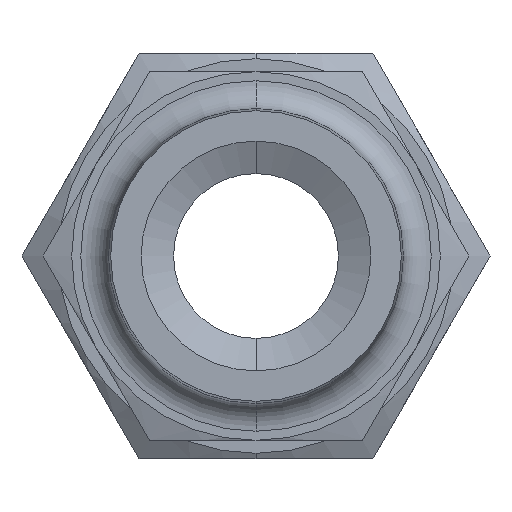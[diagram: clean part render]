
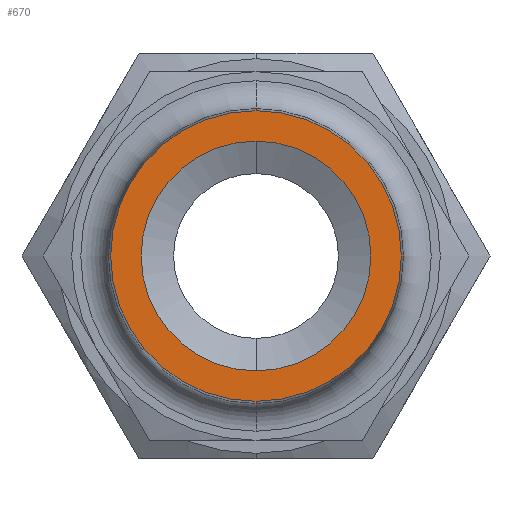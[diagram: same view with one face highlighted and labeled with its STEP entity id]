
A CAD part, left-side view. The second image highlights one B-rep face of the part: STEP entity #670.
In plain terms, the highlighted planar face has unit normal (-1, 0, 0).
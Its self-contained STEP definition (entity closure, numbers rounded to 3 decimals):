
#207 = EDGE_CURVE ( 'NONE', #307, #247, #1139, .T. ) ;
#247 = VERTEX_POINT ( 'NONE', #1114 ) ;
#294 = EDGE_CURVE ( 'NONE', #295, #296, #1300, .T. ) ;
#295 = VERTEX_POINT ( 'NONE', #1296 ) ;
#296 = VERTEX_POINT ( 'NONE', #1295 ) ;
#307 = VERTEX_POINT ( 'NONE', #1279 ) ;
#670 = ADVANCED_FACE ( 'NONE', ( #1786, #1782 ), #1781, .T. ) ;
#671 = EDGE_LOOP ( 'NONE', ( #672, #674 ) ) ;
#672 = ORIENTED_EDGE ( 'NONE', *, *, #673, .T. ) ;
#673 = EDGE_CURVE ( 'NONE', #296, #295, #1776, .T. ) ;
#674 = ORIENTED_EDGE ( 'NONE', *, *, #294, .T. ) ;
#675 = EDGE_LOOP ( 'NONE', ( #676, #705 ) ) ;
#676 = ORIENTED_EDGE ( 'NONE', *, *, #677, .F. ) ;
#677 = EDGE_CURVE ( 'NONE', #247, #307, #1924, .T. ) ;
#705 = ORIENTED_EDGE ( 'NONE', *, *, #207, .F. ) ;
#1114 = CARTESIAN_POINT ( 'NONE',  ( -23.5, 0., 4.95 ) ) ;
#1135 = DIRECTION ( 'NONE',  ( 0., 0., 1. ) ) ;
#1136 = DIRECTION ( 'NONE',  ( -1., 0., 0. ) ) ;
#1137 = CARTESIAN_POINT ( 'NONE',  ( -23.5, 0., 0. ) ) ;
#1138 = AXIS2_PLACEMENT_3D ( 'NONE', #1137, #1136, #1135 ) ;
#1139 = CIRCLE ( 'NONE', #1138, 4.95 ) ;
#1279 = CARTESIAN_POINT ( 'NONE',  ( -23.5, 0., -4.95 ) ) ;
#1295 = CARTESIAN_POINT ( 'NONE',  ( -23.5, 0., 6.259 ) ) ;
#1296 = CARTESIAN_POINT ( 'NONE',  ( -23.5, 0., -6.259 ) ) ;
#1297 = DIRECTION ( 'NONE',  ( 0., 0., 1. ) ) ;
#1298 = DIRECTION ( 'NONE',  ( -1., 0., 0. ) ) ;
#1299 = AXIS2_PLACEMENT_3D ( 'NONE', #1347, #1298, #1297 ) ;
#1300 = CIRCLE ( 'NONE', #1299, 6.259 ) ;
#1347 = CARTESIAN_POINT ( 'NONE',  ( -23.5, 0., 0. ) ) ;
#1776 = CIRCLE ( 'NONE', #1928, 6.259 ) ;
#1777 = DIRECTION ( 'NONE',  ( 0., 0., 1. ) ) ;
#1778 = DIRECTION ( 'NONE',  ( -1., 0., 0. ) ) ;
#1779 = AXIS2_PLACEMENT_3D ( 'NONE', #1780, #1778, #1777 ) ;
#1780 = CARTESIAN_POINT ( 'NONE',  ( -23.5, 0., 0. ) ) ;
#1781 = PLANE ( 'NONE',  #1779 ) ;
#1782 = FACE_BOUND ( 'NONE', #675, .T. ) ;
#1786 = FACE_OUTER_BOUND ( 'NONE', #671, .T. ) ;
#1921 = DIRECTION ( 'NONE',  ( 0., 0., 1. ) ) ;
#1922 = DIRECTION ( 'NONE',  ( -1., 0., 0. ) ) ;
#1923 = AXIS2_PLACEMENT_3D ( 'NONE', #1929, #1922, #1921 ) ;
#1924 = CIRCLE ( 'NONE', #1923, 4.95 ) ;
#1925 = DIRECTION ( 'NONE',  ( 0., 0., 1. ) ) ;
#1926 = DIRECTION ( 'NONE',  ( -1., 0., 0. ) ) ;
#1927 = CARTESIAN_POINT ( 'NONE',  ( -23.5, 0., 0. ) ) ;
#1928 = AXIS2_PLACEMENT_3D ( 'NONE', #1927, #1926, #1925 ) ;
#1929 = CARTESIAN_POINT ( 'NONE',  ( -23.5, 0., 0. ) ) ;
